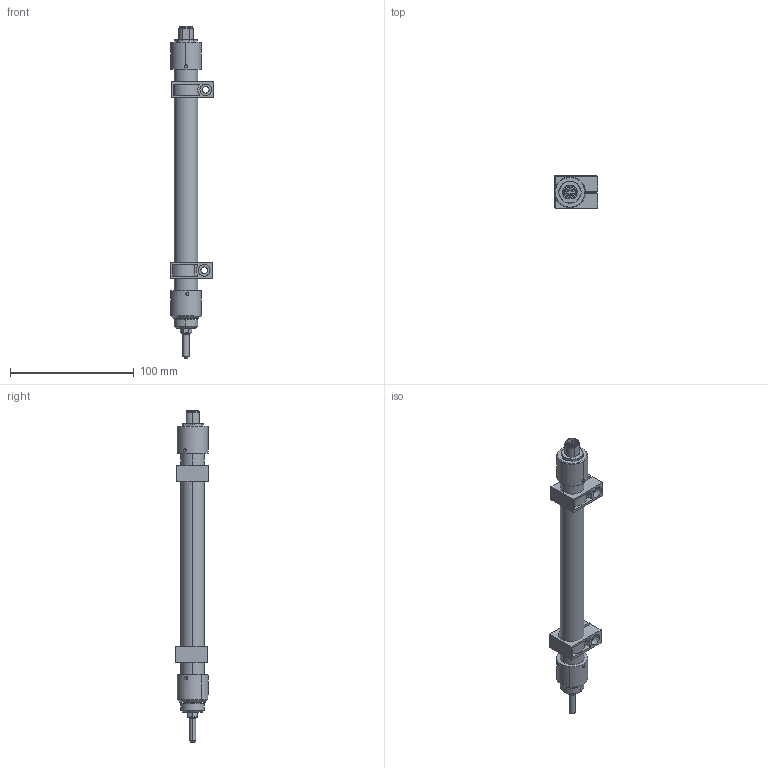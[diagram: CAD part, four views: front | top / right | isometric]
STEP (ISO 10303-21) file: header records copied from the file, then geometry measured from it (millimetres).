
FILE_DESCRIPTION (( 'STEP AP203' ), '1' );
FILE_NAME ('PZ-67-S-150.STEP', '2014-09-01T15:36:03', ( '' ), ( '' ), 'SwSTEP 2.0', 'SolidWorks 2014', '' );
FILE_SCHEMA (( 'CONFIG_CONTROL_DESIGN' ));
Length unit declared in the file: millimetre
Products named in the file (13): STA075X; TES210X; PZ-67-S-150; MIM292X_MIM292; CON338X; PTES355X; BUS070X; PTES072X; ALB121X; CUS1155X; GHI009X; TES026X; NIP027X
Assembly tree (18 placements, depth 3):
  PZ-67-S-150
    STA075X  x2
    NIP027X
    MIM292X_MIM292  x6
    PTES072X
      TES026X
      CON338X
    PTES355X
      GHI009X
      BUS070X
      TES210X
    ALB121X
    CUS1155X
Bounding box: 35.27 x 26.46 x 268.55 mm (x, y, z)
Volume: 58168.4 mm3; surface area: 47359.3 mm2
Topology: 16 solids, 16 shells, 556 faces, 1394 edges, 887 vertices
Faces by surface type: cylinder 197, plane 181, cone 166, bspline 12
Entity records: 11457 total; most frequent: CARTESIAN_POINT 2307, DIRECTION 1710, ORIENTED_EDGE 1508, EDGE_CURVE 754, AXIS2_PLACEMENT_3D 677, VERTEX_POINT 490, EDGE_LOOP 370, VECTOR 356
